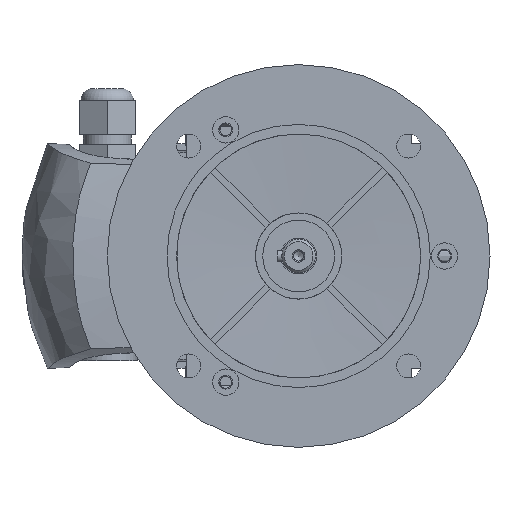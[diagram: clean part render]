
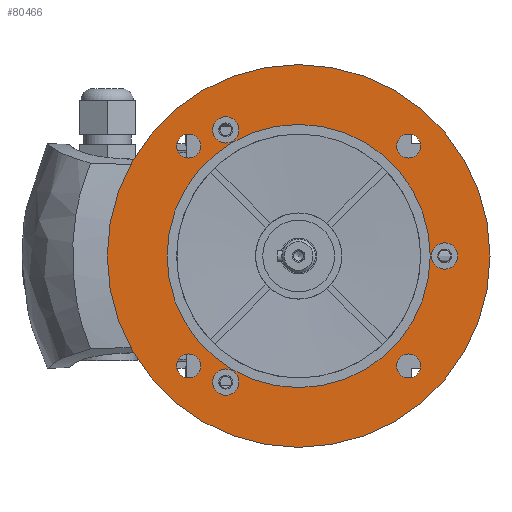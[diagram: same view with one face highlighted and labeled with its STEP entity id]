
A CAD part, left-side view. The second image highlights one B-rep face of the part: STEP entity #80466.
In plain terms, the highlighted planar face has unit normal (-1, 0, 0).
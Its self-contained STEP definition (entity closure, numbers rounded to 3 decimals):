
#77408=CARTESIAN_POINT('',(3.5,45.962,-50.962));
#77409=VERTEX_POINT('',#77408);
#77410=CARTESIAN_POINT('',(3.5,45.962,-45.962));
#77411=DIRECTION('',(1.0,0.0,0.0));
#77412=DIRECTION('',(0.0,0.0,1.0));
#77413=AXIS2_PLACEMENT_3D('',#77410,#77411,#77412);
#77414=CIRCLE('',#77413,5.);
#77415=EDGE_CURVE('',#77409,#77409,#77414,.T.);
#77436=CARTESIAN_POINT('',(3.5,45.962,40.962));
#77437=VERTEX_POINT('',#77436);
#77438=CARTESIAN_POINT('',(3.5,45.962,45.962));
#77439=DIRECTION('',(1.0,0.0,0.0));
#77440=DIRECTION('',(0.0,0.0,1.0));
#77441=AXIS2_PLACEMENT_3D('',#77438,#77439,#77440);
#77442=CIRCLE('',#77441,5.);
#77443=EDGE_CURVE('',#77437,#77437,#77442,.T.);
#77464=CARTESIAN_POINT('',(3.5,-45.962,40.962));
#77465=VERTEX_POINT('',#77464);
#77466=CARTESIAN_POINT('',(3.5,-45.962,45.962));
#77467=DIRECTION('',(1.0,0.0,0.0));
#77468=DIRECTION('',(0.0,0.0,1.0));
#77469=AXIS2_PLACEMENT_3D('',#77466,#77467,#77468);
#77470=CIRCLE('',#77469,5.);
#77471=EDGE_CURVE('',#77465,#77465,#77470,.T.);
#77492=CARTESIAN_POINT('',(3.5,-45.962,-50.962));
#77493=VERTEX_POINT('',#77492);
#77494=CARTESIAN_POINT('',(3.5,-45.962,-45.962));
#77495=DIRECTION('',(1.0,0.0,0.0));
#77496=DIRECTION('',(0.0,0.0,1.0));
#77497=AXIS2_PLACEMENT_3D('',#77494,#77495,#77496);
#77498=CIRCLE('',#77497,5.);
#77499=EDGE_CURVE('',#77493,#77493,#77498,.T.);
#77573=CARTESIAN_POINT('',(3.5,-61.,5.5));
#77574=VERTEX_POINT('',#77573);
#77575=CARTESIAN_POINT('',(3.5,-61.,0.));
#77576=DIRECTION('',(-1.0,0.0,0.0));
#77577=DIRECTION('',(0.0,0.0,1.0));
#77578=AXIS2_PLACEMENT_3D('',#77575,#77576,#77577);
#77579=CIRCLE('',#77578,5.5);
#77580=EDGE_CURVE('',#77574,#77574,#77579,.T.);
#77629=CARTESIAN_POINT('',(3.5,30.5,58.211));
#77630=VERTEX_POINT('',#77629);
#77631=CARTESIAN_POINT('',(3.5,30.5,52.711));
#77632=DIRECTION('',(-1.0,0.0,0.0));
#77633=DIRECTION('',(0.0,0.0,1.0));
#77634=AXIS2_PLACEMENT_3D('',#77631,#77632,#77633);
#77635=CIRCLE('',#77634,5.5);
#77636=EDGE_CURVE('',#77630,#77630,#77635,.T.);
#77727=CARTESIAN_POINT('',(3.5,30.5,-47.211));
#77728=VERTEX_POINT('',#77727);
#77729=CARTESIAN_POINT('',(3.5,30.5,-52.711));
#77730=DIRECTION('',(-1.0,0.0,0.0));
#77731=DIRECTION('',(0.0,0.0,1.0));
#77732=AXIS2_PLACEMENT_3D('',#77729,#77730,#77731);
#77733=CIRCLE('',#77732,5.5);
#77734=EDGE_CURVE('',#77728,#77728,#77733,.T.);
#78475=CARTESIAN_POINT('',(3.5,0.0,55.0));
#78476=VERTEX_POINT('',#78475);
#78477=CARTESIAN_POINT('',(3.5,0.0,0.0));
#78478=DIRECTION('',(-1.0,0.0,0.0));
#78479=DIRECTION('',(0.0,0.0,1.0));
#78480=AXIS2_PLACEMENT_3D('',#78477,#78478,#78479);
#78481=CIRCLE('',#78480,55.0);
#78482=EDGE_CURVE('',#78476,#78476,#78481,.T.);
#78514=CARTESIAN_POINT('',(3.5,0.0,80.0));
#78515=VERTEX_POINT('',#78514);
#78516=CARTESIAN_POINT('',(3.5,0.0,0.0));
#78517=DIRECTION('',(-1.0,0.0,0.0));
#78518=DIRECTION('',(0.0,0.0,1.0));
#78519=AXIS2_PLACEMENT_3D('',#78516,#78517,#78518);
#78520=CIRCLE('',#78519,80.0);
#78521=EDGE_CURVE('',#78515,#78515,#78520,.T.);
#80434=CARTESIAN_POINT('',(3.5,80.0,0.0));
#80435=DIRECTION('',(-1.0,0.0,0.0));
#80436=DIRECTION('',(0.0,0.0,1.0));
#80437=AXIS2_PLACEMENT_3D('',#80434,#80435,#80436);
#80438=PLANE('',#80437);
#80439=ORIENTED_EDGE('',*,*,#78521,.T.);
#80440=EDGE_LOOP('',(#80439));
#80441=FACE_OUTER_BOUND('',#80440,.T.);
#80442=ORIENTED_EDGE('',*,*,#77443,.T.);
#80443=EDGE_LOOP('',(#80442));
#80444=FACE_BOUND('',#80443,.T.);
#80445=ORIENTED_EDGE('',*,*,#77471,.T.);
#80446=EDGE_LOOP('',(#80445));
#80447=FACE_BOUND('',#80446,.T.);
#80448=ORIENTED_EDGE('',*,*,#77499,.T.);
#80449=EDGE_LOOP('',(#80448));
#80450=FACE_BOUND('',#80449,.T.);
#80451=ORIENTED_EDGE('',*,*,#77580,.F.);
#80452=EDGE_LOOP('',(#80451));
#80453=FACE_BOUND('',#80452,.T.);
#80454=ORIENTED_EDGE('',*,*,#78482,.F.);
#80455=EDGE_LOOP('',(#80454));
#80456=FACE_BOUND('',#80455,.T.);
#80457=ORIENTED_EDGE('',*,*,#77415,.T.);
#80458=EDGE_LOOP('',(#80457));
#80459=FACE_BOUND('',#80458,.T.);
#80460=ORIENTED_EDGE('',*,*,#77636,.F.);
#80461=EDGE_LOOP('',(#80460));
#80462=FACE_BOUND('',#80461,.T.);
#80463=ORIENTED_EDGE('',*,*,#77734,.F.);
#80464=EDGE_LOOP('',(#80463));
#80465=FACE_BOUND('',#80464,.T.);
#80466=ADVANCED_FACE('',(#80441,#80444,#80447,#80450,#80453,#80456,#80459,#80462,#80465),#80438,.T.);
